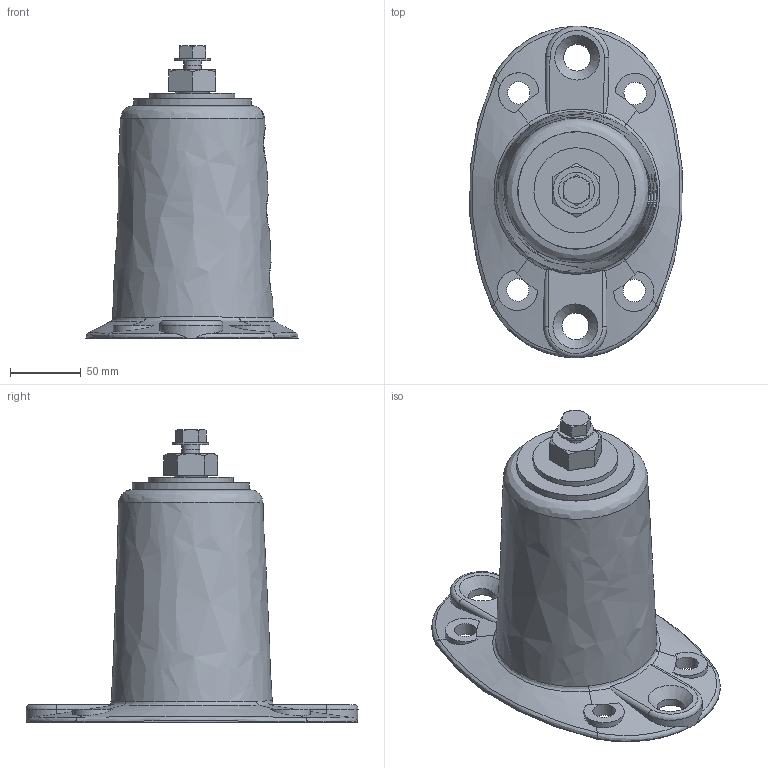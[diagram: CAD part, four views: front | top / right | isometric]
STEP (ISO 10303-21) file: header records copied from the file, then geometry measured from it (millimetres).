
FILE_DESCRIPTION(/* description */ (''),/* implementation_level */ '2;1');
FILE_NAME(/* name */ 'C:\2014_Work\SSLFHB.stp',/* time_stamp */ '2014-05-09T13:28:58-04:00',/* author */ ('mleuck'),/* organization */ (''),/* preprocessor_version */ 'ST-DEVELOPER v15.2',/* originating_system */ 'Autodesk Inventor 2014',/* authorisation */ '');
FILE_SCHEMA (('AUTOMOTIVE_DESIGN { 1 0 10303 214 3 1 1 }'));
Length unit declared in the file: inch
Products named in the file (14): A-21293-1 SSLFH-B BOX ASSY; A-21077 SSLFH-B LOWER SPRING CUP RUBBER PART; A-21077 SSLFH-B LOWER SPRING CUP STEEL CUP; A-21077 SSLFH-B LOWER SPRING CUP ASSY; A-21075-1 SSLFH-B GROMMET; A-21604 SSLFH-B TOP SPRING CUP; ANSI B18.22.1 - 1_2 - narrow - Type B; ANSI_ASME B18.2.1 - 7_8-9 UNC - 4.5(2); ANSI_ASME B18.2.1 - 1_2-13 UNC - 1(2); 2.375 O.D x 0.9375 I.D x 0.15625 STEEL WASHER; A-21625 SSLFH-B ADJUSTMENT WASHER; A-21293-1 SSLFH-B WOS ASSY.ipt; Spring B-450 pc (red); A-21293-1 SSLFH-B-450 ASSY.ipt
Bounding box: 150.47 x 235.36 x 207.7 mm (x, y, z)
Volume: 748621.6 mm3; surface area: 284790.8 mm2
Topology: 11 solids, 12 shells, 214 faces, 532 edges, 355 vertices
Faces by surface type: cylinder 85, plane 84, cone 20, bspline 19, torus 6
Full cylindrical faces by diameter (mm): 12.7 x2, 13.487 x1, 15.875 x5, 19.05 x3, 22.225 x3, 22.733 x1, 23.8 x1, 23.812 x1, 25.4 x5, 33.325 x1, 33.337 x1, 38.1 x1, 50.8 x1, 51.594 x1, 58.725 x1, 58.737 x1, 60.325 x2, 63.5 x1, 68.263 x1, 69.85 x1, 82.55 x1, 83.07 x1, 104.775 x1
Entity records: 9930 total; most frequent: CARTESIAN_POINT 4949, DIRECTION 990, ORIENTED_EDGE 914, EDGE_CURVE 457, AXIS2_PLACEMENT_3D 430, VERTEX_POINT 321, EDGE_LOOP 304, ADVANCED_FACE 214
